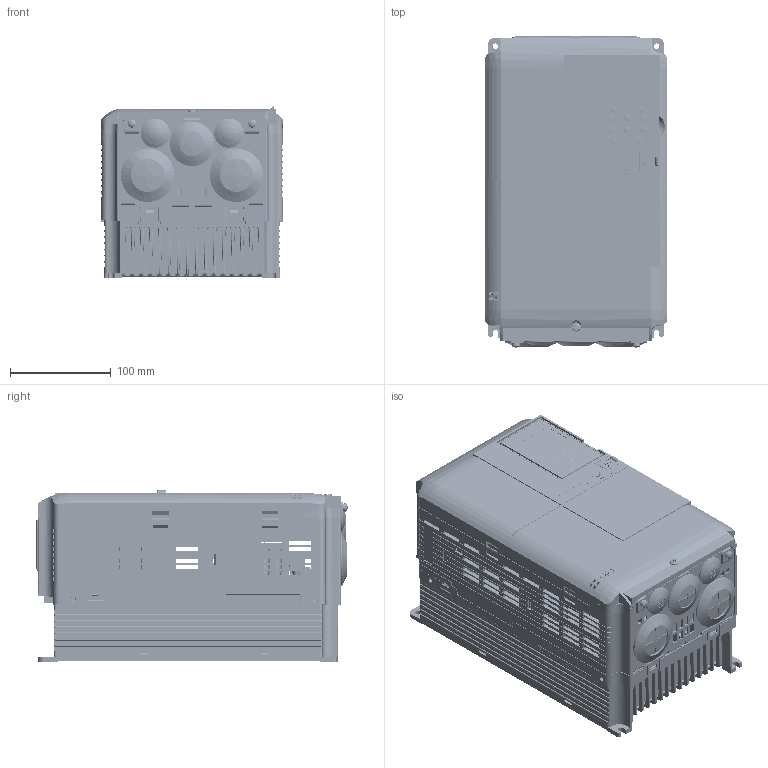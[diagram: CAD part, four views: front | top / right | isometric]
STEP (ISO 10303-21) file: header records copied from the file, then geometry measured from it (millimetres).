
FILE_DESCRIPTION((''),'2;1');
FILE_NAME('71616-AC4A0031FAA_ASM','2010-02-19T',('jc'),('YASKAWA ELECTRIC CORCORATION'),'PRO/ENGINEER BY PARAMETRIC TECHNOLOGY CORPORATION, 2008490','PRO/ENGINEER BY PARAMETRIC TECHNOLOGY CORPORATION, 2008490','');
FILE_SCHEMA(('CONFIG_CONTROL_DESIGN'));
Length unit declared in the file: millimetre
Products named in the file (104): LAY_AC4A0031FAA; HSGT21106_1; HSGT21106_ASM; CVST31321; ISCT21010; YPHT31613-1B_AF0; TBET31181_1_1_AF0; TBET31181_1_2_AF0; TBET31181_1_3_AF0; TBET31181_1_3_AF1; TBET31181_1_2_AF1; TBET31181_1_2_AF2; TBET31181_1_2_AF3; TBET31181_1_2_AF4; TBET31181_1_2_AF5; TBET31181_1_2_AF6; TBET31181_1_2_AF7; TBET31181_1_2_AF8; TBET31181_1_5_AF1; TBET31181_1_6_AF0; TBET31181_1_6_AF1; TBET31181_1_4_AF3; TBET31181_1_4_AF4; TBET31181_1_4_AF5; TBET31181_1_7_AF5; TBET31181_1_7_AF6; TBET31181_1_7_AF7; TBET31181_1_7_AF8; TBET31181_1_7_AF9; TBET31181_1_AF0_ASM; TBET31181_4_AF0; TBET31181_2_AF0; TBET31181_3_AF0; TBET31181_3_AF1; TBET31181_2_AF1; TBET31181_2_AF2; TBET31181_2_AF3; TBET31181_2_AF4; TBET31181_2_AF5; TBET31181_2_AF6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
Assembly tree (108 placements, depth 5):
  71616-AC4A0031FAA_ASM
    LAY_AC4A0031FAA
    HSGT21106_ASM
      HSGT21106_1
    CVST31321
    ISCT21010
    ETP712170_ASM
      YPHT31613-1B_AF0
      TBET31181_AF0_ASM
        TBET31181_1_AF0_ASM
          TBET31181_1_1_AF0
          TBET31181_1_2_AF0
          TBET31181_1_3_AF0
          TBET31181_1_3_AF1
          TBET31181_1_2_AF1
          TBET31181_1_2_AF2
          TBET31181_1_2_AF3
          TBET31181_1_2_AF4
          TBET31181_1_2_AF5
          TBET31181_1_2_AF6
          TBET31181_1_2_AF7
          TBET31181_1_2_AF8
          TBET31181_1_5_AF1
          TBET31181_1_6_AF0
          TBET31181_1_6_AF1
          TBET31181_1_4_AF3
          TBET31181_1_4_AF4
          TBET31181_1_4_AF5
          TBET31181_1_7_AF5
          TBET31181_1_7_AF6
          TBET31181_1_7_AF7
          TBET31181_1_7_AF8
          TBET31181_1_7_AF9
        TBET31181_4_AF0
        TBET31181_2_AF0
        TBET31181_3_AF0
        TBET31181_3_AF1
        TBET31181_2_AF1
        TBET31181_2_AF2
        TBET31181_2_AF3
        TBET31181_2_AF4
        TBET31181_2_AF5
        TBET31181_2_AF6
        TBET31181_2_AF7
        TBET31181_2_AF8
    CVST31359
    CVST21162_ASM
      CVST21162_1_AF0
      CVST21162_2_AF3
      CVST21162_2_AF4
      CVST21162_2_AF8
      CVST21162_2_AF5
      CVST21162_2_AF0
      CVST21162_2_AF1
      CVST21162_2_AF2
      CVST21162_2_AF6
      CVST21162_2_AF7
      CVST21162_2_AF9
    CVST31361
    CVST31363
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Bounding box: 180 x 308.4 x 169.89 mm (x, y, z)
Volume: 5367691.7 mm3; surface area: 1104725.4 mm2
Topology: 204 solids, 213 shells, 18668 faces, 51118 edges, 32982 vertices
Faces by surface type: plane 13989, cylinder 2652, cone 731, bspline 530, sphere 381, torus 267, extrusion 118
Entity records: 616868 total; most frequent: CARTESIAN_POINT 148599, ORIENTED_EDGE 101012, DIRECTION 90251, EDGE_CURVE 50506, VECTOR 40679, LINE 40561, VERTEX_POINT 32683, AXIS2_PLACEMENT_3D 24786
